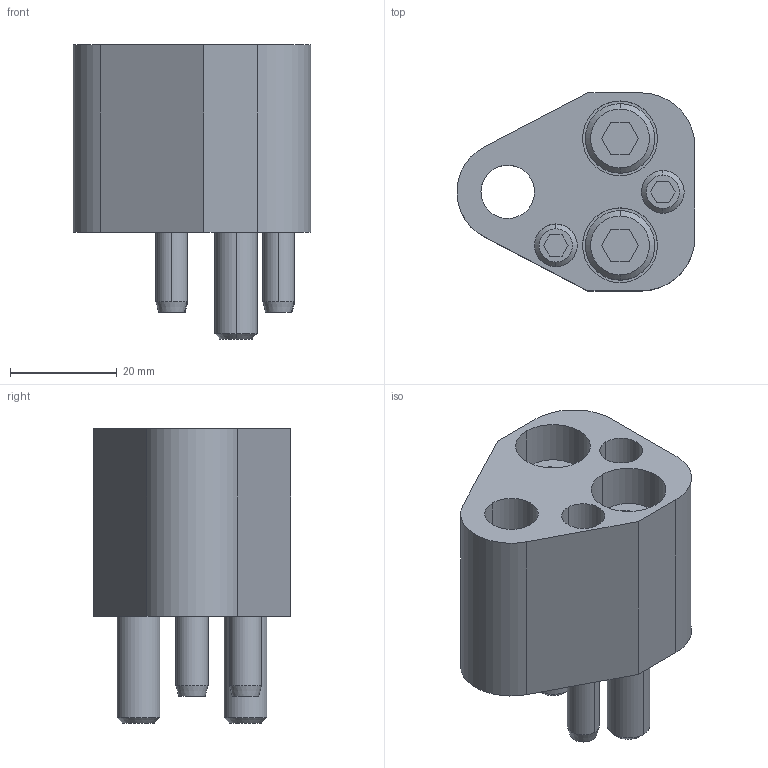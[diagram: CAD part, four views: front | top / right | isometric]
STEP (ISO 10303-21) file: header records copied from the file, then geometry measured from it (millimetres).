
FILE_DESCRIPTION(/* description */ (''),/* implementation_level */ '2;1');
FILE_NAME(/* name */ '3d_hapar10_04005_r00.stp',/* time_stamp */ '2011-01-10T14:14:57+09:00',/* author */ ('MISUMI'),/* organization */ (''),/* preprocessor_version */ 'ST-DEVELOPER v11',/* originating_system */ 'UGS - NX 5.0',/* authorisation */ '');
FILE_SCHEMA (('CONFIG_CONTROL_DESIGN'));
Length unit declared in the file: millimetre
Products named in the file (1): 3d_hapar10_04005_r00
Bounding box: 44.47 x 37 x 55 mm (x, y, z)
Volume: 39277.7 mm3; surface area: 17280.5 mm2
Topology: 7 solids, 7 shells, 135 faces, 294 edges, 188 vertices
Faces by surface type: plane 60, cylinder 49, cone 26
Entity records: 3836 total; most frequent: DIRECTION 684, CARTESIAN_POINT 672, ORIENTED_EDGE 588, EDGE_CURVE 294, AXIS2_PLACEMENT_3D 260, VERTEX_POINT 188, LINE 164, VECTOR 164
